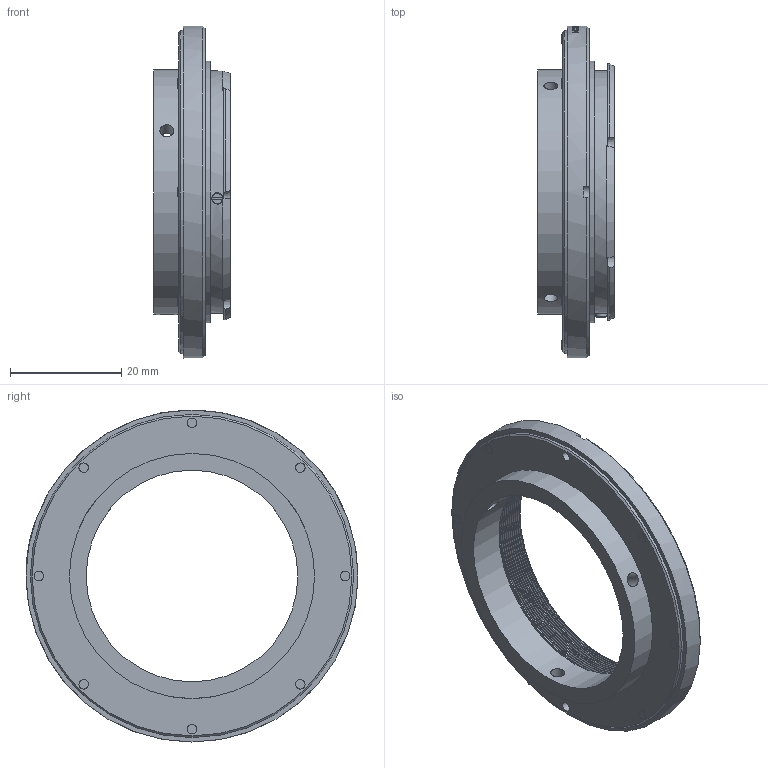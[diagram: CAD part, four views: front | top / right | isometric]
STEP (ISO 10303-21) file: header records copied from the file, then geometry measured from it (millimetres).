
FILE_DESCRIPTION(/* description */ (''),/* implementation_level */ '2;1');
FILE_NAME(/* name */ '21610.stp',/* time_stamp */ '2014-04-11T09:42:48+02:00',/* author */ (''),/* organization */ (''),/* preprocessor_version */ 'ST-DEVELOPER v11',/* originating_system */ 'SIEMENS PLM Software NX 7.5',/* authorisation */ '');
FILE_SCHEMA (('AUTOMOTIVE_DESIGN { 1 0 10303 214 1 1 1 1 }'));
Length unit declared in the file: millimetre
Products named in the file (1): 00118961_001
Bounding box: 13.8 x 59.6 x 59.6 mm (x, y, z)
Volume: 8786.2 mm3; surface area: 9394 mm2
Topology: 1 solids, 7 shells, 345 faces, 772 edges, 476 vertices
Faces by surface type: plane 196, cylinder 85, cone 47, torus 17
Full cylindrical faces by diameter (mm): 1.4 x1, 1.5 x1, 1.7 x14, 1.8 x6, 2 x1, 2.5 x3, 3.1 x6, 38 x1, 41 x9, 43.5 x1, 44 x1, 47 x1, 51 x1, 58 x1, 59.6 x1
Entity records: 11836 total; most frequent: CARTESIAN_POINT 2259, DIRECTION 1487, ORIENTED_EDGE 1300, EDGE_CURVE 650, AXIS2_PLACEMENT_3D 582, EDGE_LOOP 492, VERTEX_POINT 447, PRESENTATION_STYLE_ASSIGNMENT 346
